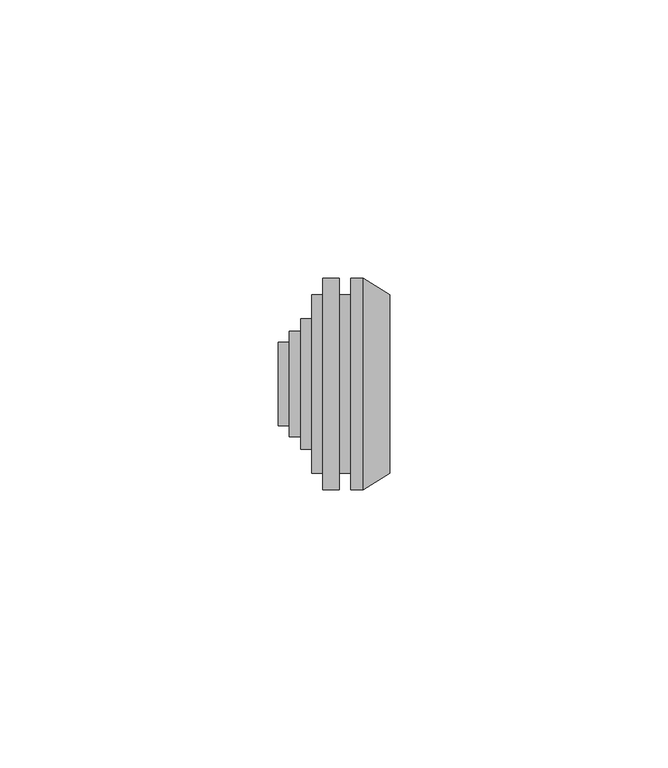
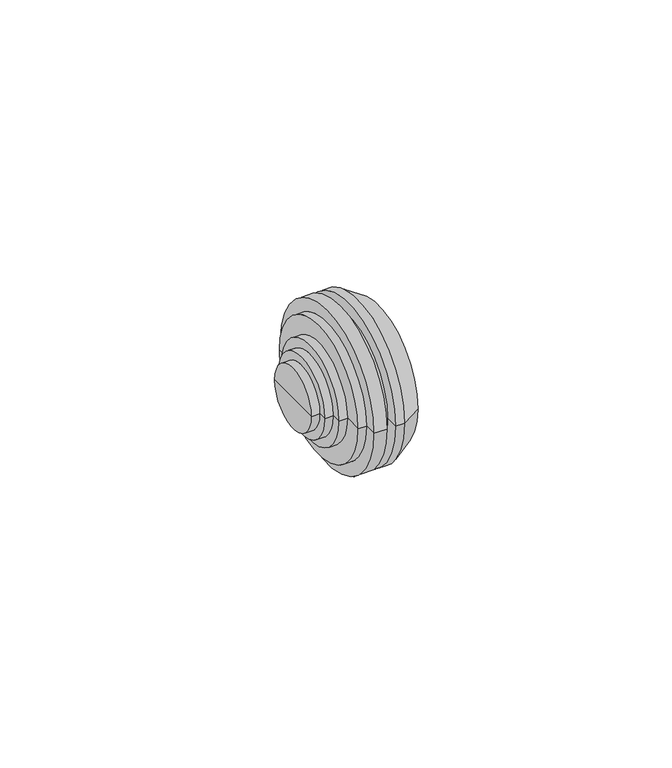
"""IFC4 building model written with IfcOpenShell, lengths in millimetres: cable carrier fitting geometry, КНС_КабельныйВводДляТруб_IP55_DKC : Коробка."""

import ifcopenshell
import ifcopenshell.guid

model = None  # the IFC model being written
_history = None  # IfcOwnerHistory: only IFC2X3 demands one
_inside = {}  # id of a spatial element -> (the spatial element, [elements in it])
_under = {}  # id of a project, library or spatial element -> (it, [spatial elements below it])
_declared = {}  # id of a project -> (the project, [libraries it declares])
_typed = {}  # id of a type object -> (the type object, [elements of that type])
_made_of = {}  # id of a material, layer set ... -> (it, [elements and type objects made of it])


def new_model(schema):
    """Start an empty IFC model of exactly this schema.

    Asked for "IFC4X3", IfcOpenShell would pick the latest addendum, in which some entities
    have other attributes; the version numbers below select the first issue.
    IFC2X3 requires an IfcOwnerHistory on every rooted entity: one is made here for all.
    """
    global model, _history
    if schema == "IFC4X3":
        model = ifcopenshell.file(schema_version=(4, 3, 0, 0))
    else:
        model = ifcopenshell.file(schema=schema)
    _inside.clear()
    _under.clear()
    _declared.clear()
    _typed.clear()
    _made_of.clear()
    _history = None
    if model.schema == "IFC2X3":
        org = make("IfcOrganization", Name="unknown")
        user = make(
            "IfcPersonAndOrganization",
            ThePerson=make("IfcPerson", FamilyName="unknown"),
            TheOrganization=org,
        )
        app = make(
            "IfcApplication",
            ApplicationDeveloper=org,
            Version="unknown",
            ApplicationFullName="unknown",
            ApplicationIdentifier="unknown",
        )
        _history = make(
            "IfcOwnerHistory",
            OwningUser=user,
            OwningApplication=app,
            ChangeAction="ADDED",
            CreationDate=0,
        )
    return model


def make(cls, **values):
    """One entity of the class cls with the attributes given. An attribute that is None is left unset."""
    return model.create_entity(
        cls, **{name: value for name, value in values.items() if value is not None}
    )


def rooted(cls, **values):
    """An entity with a GlobalId (a new one), such as an element, a storey or a relation."""
    return make(cls, GlobalId=ifcopenshell.guid.new(), OwnerHistory=_history, **values)


def si_unit(unit_type, name, prefix=None):
    """IfcSIUnit, for example si_unit("LENGTHUNIT", "METRE", prefix="MILLI")."""
    return make("IfcSIUnit", UnitType=unit_type, Prefix=prefix, Name=name)


def assignment(units):
    """IfcUnitAssignment: the units of a project."""
    return None if units is None else make("IfcUnitAssignment", Units=units)


def point(xyz):
    """IfcCartesianPoint."""
    return None if xyz is None else make("IfcCartesianPoint", Coordinates=xyz)


def direction(xyz):
    """IfcDirection."""
    return None if xyz is None else make("IfcDirection", DirectionRatios=xyz)


def frame(location, z_axis=None, x_axis=None):
    """IfcAxis2Placement3D, a coordinate frame: its origin and axes. An axis left out is left unset."""
    return make(
        "IfcAxis2Placement3D",
        Location=point(location),
        Axis=direction(z_axis),
        RefDirection=direction(x_axis),
    )


def origin():
    """The frame at (0, 0, 0) with its axes left unset."""
    return frame((0.0, 0.0, 0.0))


def place(relative_to, where):
    """IfcLocalPlacement: puts the frame where relative to a parent placement (None: the world)."""
    return make(
        "IfcLocalPlacement", PlacementRelTo=relative_to, RelativePlacement=where
    )


def context(
    kind, dimensions, precision=None, world=None, true_north=None, identifier=None
):
    """IfcGeometricRepresentationContext, for example the 3D "Model" context."""
    return make(
        "IfcGeometricRepresentationContext",
        ContextIdentifier=identifier,
        ContextType=kind,
        CoordinateSpaceDimension=dimensions,
        Precision=precision,
        WorldCoordinateSystem=world,
        TrueNorth=true_north,
    )


def project(units=None, contexts=None):
    """IfcProject with its units and contexts."""
    return rooted(
        "IfcProject",
        Name="project",
        RepresentationContexts=contexts,
        UnitsInContext=assignment(units),
    )


def spatial(cls, under=None, at=None, **own):
    """A site, building, storey or space (cls), placed at a placement, below another one or the project."""
    s = rooted(cls, ObjectPlacement=at, **own)
    if under is not None:
        _under.setdefault(under.id(), (under, []))[1].append(s)
    return s


def polyline(points):
    """IfcPolyline through the points."""
    return make("IfcPolyline", Points=[point(p) for p in points])


def circle_curve(where, radius):
    """IfcCircle in the frame where."""
    return make("IfcCircle", Position=where, Radius=radius)


def shape(context_of_items, identifier, shape_type, items):
    """IfcShapeRepresentation: the items that make up one representation, for example the "Body"."""
    return make(
        "IfcShapeRepresentation",
        ContextOfItems=context_of_items,
        RepresentationIdentifier=identifier,
        RepresentationType=shape_type,
        Items=items,
    )


def source(mapping_origin, context_of_items, identifier, shape_type, items):
    """IfcRepresentationMap: a shape defined once, which mapped items show again and again."""
    return make(
        "IfcRepresentationMap",
        MappingOrigin=mapping_origin,
        MappedRepresentation=shape(context_of_items, identifier, shape_type, items),
    )


def transform(
    local_origin,
    x_axis=None,
    y_axis=None,
    z_axis=None,
    scale=None,
    scale2=None,
    scale3=None,
    uniform=True,
):
    """IfcCartesianTransformationOperator3D, or its non-uniform kind. x_axis, y_axis, z_axis: its Axis1, 2, 3."""
    if uniform:
        return make(
            "IfcCartesianTransformationOperator3D",
            Axis1=direction(x_axis),
            Axis2=direction(y_axis),
            LocalOrigin=point(local_origin),
            Scale=scale,
            Axis3=direction(z_axis),
        )
    return make(
        "IfcCartesianTransformationOperator3DnonUniform",
        Axis1=direction(x_axis),
        Axis2=direction(y_axis),
        LocalOrigin=point(local_origin),
        Scale=scale,
        Axis3=direction(z_axis),
        Scale2=scale2,
        Scale3=scale3,
    )


def mapped(mapping_source, mapping_target):
    """IfcMappedItem: shows the shape of a source again, moved by a transform."""
    return make(
        "IfcMappedItem", MappingSource=mapping_source, MappingTarget=mapping_target
    )


def made_of(thing, what):
    """Note that an element or type object is made of a material, layer set ...; save() writes the relation."""
    if what is not None:
        _made_of.setdefault(what.id(), (what, []))[1].append(thing)
    return thing


def element(
    cls,
    number,
    at=None,
    inside=None,
    cuts=None,
    type_object=None,
    material=None,
    context=None,
    identifier="Body",
    shape_type=None,
    held_by="IfcProductDefinitionShape",
    body=None,
    shapes=None,
    **own,
):
    """One element of the class cls, such as IfcWall. Its Tag is "e" and its number.

    at: its placement. inside: the storey or other place that contains it. cuts: it is an
    opening in that element (IfcRelVoidsElement). A single representation is given by context,
    identifier, shape_type and body (its items); several are given by shapes. held_by: the class
    of the entity that holds the representations. save() writes the other relations.
    """
    e = rooted(cls, Tag="e%d" % number, ObjectPlacement=at, **own)
    if body is not None:
        shapes = [shape(context, identifier, shape_type, body)]
    if shapes is not None:
        e.Representation = make(held_by, Representations=shapes)
    if inside is not None:
        _inside.setdefault(inside.id(), (inside, []))[1].append(e)
    if cuts is not None:
        rooted(
            "IfcRelVoidsElement", RelatingBuildingElement=cuts, RelatedOpeningElement=e
        )
    if type_object is not None:
        _typed.setdefault(type_object.id(), (type_object, []))[1].append(e)
    return made_of(e, material)


def aggregate(whole, parts):
    """IfcRelAggregates: a whole, such as a stair, and the parts it consists of."""
    return rooted("IfcRelAggregates", RelatingObject=whole, RelatedObjects=parts)


def save(model, path):
    """Write the relations noted so far, then the file.

    IfcRelAggregates (storeys below a building ...), IfcRelContainedInSpatialStructure (elements
    in a storey), IfcRelDefinesByType, IfcRelAssociatesMaterial and IfcRelDeclares: one each for
    every whole, place, type object, material and project.
    """
    for whole, parts in _under.values():
        aggregate(whole, parts)
    for where, things in _inside.values():
        rooted(
            "IfcRelContainedInSpatialStructure",
            RelatedElements=things,
            RelatingStructure=where,
        )
    for kind, things in _typed.values():
        rooted("IfcRelDefinesByType", RelatedObjects=things, RelatingType=kind)
    for what, things in _made_of.values():
        rooted("IfcRelAssociatesMaterial", RelatedObjects=things, RelatingMaterial=what)
    for by, libraries in _declared.values():
        rooted("IfcRelDeclares", RelatingContext=by, RelatedDefinitions=libraries)
    model.write(path)


def plane_surface(at):
    """IfcPlane: the flat surface through the origin of the frame at, square to its z axis."""
    return make("IfcPlane", Position=at)


def cylinder_surface(at, radius):
    """IfcCylindricalSurface: all points at the distance radius from the z axis of the frame at."""
    return make("IfcCylindricalSurface", Position=at, Radius=radius)


def revolved_surface(curve, axis_point, axis_direction):
    """IfcSurfaceOfRevolution: the curve turned about the line through axis_point along axis_direction."""
    return make(
        "IfcSurfaceOfRevolution",
        SweptCurve=make("IfcArbitraryOpenProfileDef", ProfileType="CURVE", Curve=curve),
        AxisPosition=make("IfcAxis1Placement", Location=point(axis_point), Axis=direction(axis_direction)),
    )


def advanced_brep(points, edges, surfaces, faces):
    """IfcAdvancedBrep: a solid bounded by faces that lie on surfaces and meet in shared edges.

    An edge is (start, end): straight between two places in points (the first is 0);
    or (start, end, curve); or (start, end, curve, False) where it runs against its curve.
    A face is (place in surfaces, loops), or (place, loops, False) where it looks against
    its surface's normal. A loop lists edges by number (the first is 1), with a minus sign
    where the edge is run from its end to its start. The first loop is the outer one.
    """
    corners = [point(p) for p in points]
    vertices = [make("IfcVertexPoint", VertexGeometry=c) for c in corners]
    made = []
    for start, end, *more in edges:
        made.append(
            make(
                "IfcEdgeCurve",
                EdgeStart=vertices[start],
                EdgeEnd=vertices[end],
                EdgeGeometry=more[0] if more else make("IfcPolyline", Points=[corners[start], corners[end]]),
                SameSense=more[1] if len(more) > 1 else True,
            )
        )
    hull = []
    for where, loops, *sense in faces:
        bounds = []
        for j, loop in enumerate(loops):
            ring = [make("IfcOrientedEdge", EdgeElement=made[abs(k) - 1], Orientation=k > 0) for k in loop]
            bounds.append(
                make(
                    "IfcFaceOuterBound" if j == 0 else "IfcFaceBound",
                    Bound=make("IfcEdgeLoop", EdgeList=ring),
                    Orientation=True,
                )
            )
        hull.append(make("IfcAdvancedFace", Bounds=bounds, FaceSurface=surfaces[where], SameSense=sense[0] if sense else True))
    return make("IfcAdvancedBrep", Outer=make("IfcClosedShell", CfsFaces=hull))


def cable_carrier_fitting_f18409c2(model_context):
    return source(origin(), model_context, "Body", "AdvancedBrep", [
        advanced_brep(
        [(11.0, -16.0, 0.0), (11.0, 16.0, 0.0), (11.0, 19.0, 0.0), (11.0, -19.0, 0.0), (9.0, -16.0, 0.0), (9.0, 16.0, 0.0), (9.0, -19.0, 0.0), (9.0, 19.0, 0.0), (6.0, -19.0, 0.0), (6.0, 19.0, 0.0), (6.0, -16.0, 0.0), (6.0, 16.0, 0.0), (4.0, -16.0, 0.0), (4.0, 16.0, 0.0), (4.0, -11.75, 0.0), (4.0, 11.75, 0.0), (2.0, -11.75, 0.0), (2.0, 11.75, 0.0), (2.0, -9.5, 0.0), (2.0, 9.5, 0.0), (0.0, -9.5, 0.0), (0.0, 9.5, 0.0), (0.0, -7.5, 0.0), (0.0, 7.5, 0.0), (-2.0, -7.5, 0.0), (-2.0, 7.5, 0.0), (-2.0, 0.0, 0.0), (18.0, -16.0, 0.0), (18.0, 16.0, 0.0), (18.0, 0.0, 0.0), (13.2508863, -19.0, 0.0), (13.2508863, 19.0, 0.0)],
        [
            (0, 1, circle_curve(frame((11.0, 0.0, 0.0), z_axis=(1.0, 0.0, 0.0), x_axis=(0.0, 1.0, 0.0)), 16.0)),
            (1, 2),
            (2, 3, circle_curve(frame((11.0, 0.0, 0.0), z_axis=(-1.0, 0.0, 0.0), x_axis=(0.0, 1.0, 0.0)), 19.0)),
            (3, 0),
            (1, 0, circle_curve(frame((11.0, 0.0, 0.0), z_axis=(1.0, 0.0, 0.0), x_axis=(0.0, 1.0, 0.0)), 16.0)),
            (3, 2, circle_curve(frame((11.0, 0.0, 0.0), z_axis=(-1.0, 0.0, 0.0), x_axis=(0.0, 1.0, 0.0)), 19.0)),
            (4, 5, circle_curve(frame((9.0, 0.0, 0.0), z_axis=(1.0, 0.0, 0.0), x_axis=(0.0, 1.0, 0.0)), 16.0)),
            (5, 1),
            (0, 4),
            (5, 4, circle_curve(frame((9.0, 0.0, 0.0), z_axis=(1.0, 0.0, 0.0), x_axis=(0.0, 1.0, 0.0)), 16.0)),
            (6, 7, circle_curve(frame((9.0, 0.0, 0.0), z_axis=(1.0, 0.0, 0.0), x_axis=(0.0, 1.0, 0.0)), 19.0)),
            (7, 5),
            (4, 6),
            (7, 6, circle_curve(frame((9.0, 0.0, 0.0), z_axis=(1.0, 0.0, 0.0), x_axis=(0.0, 1.0, 0.0)), 19.0)),
            (8, 9, circle_curve(frame((6.0, 0.0, 0.0), z_axis=(1.0, 0.0, 0.0), x_axis=(0.0, 1.0, 0.0)), 19.0)),
            (9, 7),
            (6, 8),
            (9, 8, circle_curve(frame((6.0, 0.0, 0.0), z_axis=(1.0, 0.0, 0.0), x_axis=(0.0, 1.0, 0.0)), 19.0)),
            (10, 11, circle_curve(frame((6.0, 0.0, 0.0), z_axis=(1.0, 0.0, 0.0), x_axis=(0.0, 1.0, 0.0)), 16.0)),
            (11, 9),
            (8, 10),
            (11, 10, circle_curve(frame((6.0, 0.0, 0.0), z_axis=(1.0, 0.0, 0.0), x_axis=(0.0, 1.0, 0.0)), 16.0)),
            (12, 13, circle_curve(frame((4.0, 0.0, 0.0), z_axis=(1.0, 0.0, 0.0), x_axis=(0.0, 1.0, 0.0)), 16.0)),
            (13, 11),
            (10, 12),
            (13, 12, circle_curve(frame((4.0, 0.0, 0.0), z_axis=(1.0, 0.0, 0.0), x_axis=(0.0, 1.0, 0.0)), 16.0)),
            (14, 15, circle_curve(frame((4.0, 0.0, 0.0), z_axis=(1.0, 0.0, 0.0), x_axis=(0.0, 1.0, 0.0)), 11.75)),
            (15, 13),
            (12, 14),
            (15, 14, circle_curve(frame((4.0, 0.0, 0.0), z_axis=(1.0, 0.0, 0.0), x_axis=(0.0, 1.0, 0.0)), 11.75)),
            (16, 17, circle_curve(frame((2.0, 0.0, 0.0), z_axis=(1.0, 0.0, 0.0), x_axis=(0.0, 1.0, 0.0)), 11.75)),
            (17, 15),
            (14, 16),
            (17, 16, circle_curve(frame((2.0, 0.0, 0.0), z_axis=(1.0, 0.0, 0.0), x_axis=(0.0, 1.0, 0.0)), 11.75)),
            (18, 19, circle_curve(frame((2.0, 0.0, 0.0), z_axis=(1.0, 0.0, 0.0), x_axis=(0.0, 1.0, 0.0)), 9.5)),
            (19, 17),
            (16, 18),
            (19, 18, circle_curve(frame((2.0, 0.0, 0.0), z_axis=(1.0, 0.0, 0.0), x_axis=(0.0, 1.0, 0.0)), 9.5)),
            (20, 21, circle_curve(frame((0.0, 0.0, 0.0), z_axis=(1.0, 0.0, 0.0), x_axis=(0.0, 1.0, 0.0)), 9.5)),
            (21, 19),
            (18, 20),
            (21, 20, circle_curve(frame((0.0, 0.0, 0.0), z_axis=(1.0, 0.0, 0.0), x_axis=(0.0, 1.0, 0.0)), 9.5)),
            (22, 23, circle_curve(frame((0.0, 0.0, 0.0), z_axis=(1.0, 0.0, 0.0), x_axis=(0.0, 1.0, 0.0)), 7.5)),
            (23, 21),
            (20, 22),
            (23, 22, circle_curve(frame((0.0, 0.0, 0.0), z_axis=(1.0, 0.0, 0.0), x_axis=(0.0, 1.0, 0.0)), 7.5)),
            (24, 25, circle_curve(frame((-2.0, 0.0, 0.0), z_axis=(1.0, 0.0, 0.0), x_axis=(0.0, 1.0, 0.0)), 7.5)),
            (25, 23),
            (22, 24),
            (25, 24, circle_curve(frame((-2.0, 0.0, 0.0), z_axis=(1.0, 0.0, 0.0), x_axis=(0.0, 1.0, 0.0)), 7.5)),
            (26, 25),
            (24, 26),
            (27, 28, circle_curve(frame((18.0, 0.0, 0.0), z_axis=(1.0, 0.0, 0.0), x_axis=(0.0, 1.0, 0.0)), 16.0)),
            (28, 29),
            (29, 27),
            (28, 27, circle_curve(frame((18.0, 0.0, 0.0), z_axis=(1.0, 0.0, 0.0), x_axis=(0.0, 1.0, 0.0)), 16.0)),
            (30, 31, circle_curve(frame((13.2508863, 0.0, 0.0), z_axis=(1.0, 0.0, 0.0), x_axis=(0.0, 1.0, 0.0)), 19.0)),
            (31, 28),
            (27, 30),
            (31, 30, circle_curve(frame((13.2508863, 0.0, 0.0), z_axis=(1.0, 0.0, 0.0), x_axis=(0.0, 1.0, 0.0)), 19.0)),
            (2, 31),
            (30, 3),
        ],
        [
            plane_surface(frame((11.0, 0.0, 0.0), z_axis=(-1.0, 0.0, 0.0), x_axis=(0.0, 1.0, 0.0))),
            cylinder_surface(frame((1524.0, 0.0, 0.0), z_axis=(-1.0, 0.0, 0.0), x_axis=(0.0, 1.0, 0.0)), 16.0),
            plane_surface(frame((9.0, 0.0, 0.0), z_axis=(1.0, 0.0, 0.0), x_axis=(0.0, 1.0, 0.0))),
            cylinder_surface(frame((1524.0, 0.0, 0.0), z_axis=(-1.0, 0.0, 0.0), x_axis=(0.0, 1.0, 0.0)), 19.0),
            plane_surface(frame((6.0, 0.0, 0.0), z_axis=(-1.0, 0.0, 0.0), x_axis=(0.0, 1.0, 0.0))),
            plane_surface(frame((4.0, 0.0, 0.0), z_axis=(-1.0, 0.0, 0.0), x_axis=(0.0, 1.0, 0.0))),
            cylinder_surface(frame((1524.0, 0.0, 0.0), z_axis=(-1.0, 0.0, 0.0), x_axis=(0.0, 1.0, 0.0)), 11.75),
            plane_surface(frame((2.0, 0.0, 0.0), z_axis=(-1.0, 0.0, 0.0), x_axis=(0.0, 1.0, 0.0))),
            cylinder_surface(frame((1524.0, 0.0, 0.0), z_axis=(-1.0, 0.0, 0.0), x_axis=(0.0, 1.0, 0.0)), 9.5),
            plane_surface(frame((0.0, 0.0, 0.0), z_axis=(-1.0, 0.0, 0.0), x_axis=(0.0, 1.0, 0.0))),
            cylinder_surface(frame((1524.0, 0.0, 0.0), z_axis=(-1.0, 0.0, 0.0), x_axis=(0.0, 1.0, 0.0)), 7.5),
            plane_surface(frame((-2.0, 0.0, 0.0), z_axis=(-1.0, 0.0, 0.0), x_axis=(0.0, 1.0, 0.0))),
            plane_surface(frame((18.0, 0.0, 0.0), z_axis=(1.0, 0.0, 0.0), x_axis=(0.0, 1.0, 0.0))),
            revolved_surface(polyline([(18.0, 16.0, 0.0), (13.2508863, 19.0, 0.0)]), (1524.0, 0.0, 0.0), (-1.0, 0.0, 0.0)),
        ],
        [
            (0, [[1, 2, 3, 4]]),
            (0, [[5, -4, 6, -2]]),
            (1, [[7, 8, -1, 9]]),
            (1, [[10, -9, -5, -8]]),
            (2, [[11, 12, -7, 13]]),
            (2, [[14, -13, -10, -12]]),
            (3, [[15, 16, -11, 17]]),
            (3, [[18, -17, -14, -16]]),
            (4, [[19, 20, -15, 21]]),
            (4, [[22, -21, -18, -20]]),
            (1, [[23, 24, -19, 25]]),
            (1, [[26, -25, -22, -24]]),
            (5, [[27, 28, -23, 29]]),
            (5, [[30, -29, -26, -28]]),
            (6, [[31, 32, -27, 33]]),
            (6, [[34, -33, -30, -32]]),
            (7, [[35, 36, -31, 37]]),
            (7, [[38, -37, -34, -36]]),
            (8, [[39, 40, -35, 41]]),
            (8, [[42, -41, -38, -40]]),
            (9, [[43, 44, -39, 45]]),
            (9, [[46, -45, -42, -44]]),
            (10, [[47, 48, -43, 49]]),
            (10, [[50, -49, -46, -48]]),
            (11, [[51, -47, 52]]),
            (11, [[-52, -50, -51]]),
            (12, [[53, 54, 55]]),
            (12, [[56, -55, -54]]),
            (13, [[57, 58, -53, 59]]),
            (13, [[60, -59, -56, -58]]),
            (3, [[-3, 61, -57, 62]]),
            (3, [[-6, -62, -60, -61]]),
        ],
    ),
    ])


if __name__ == "__main__":
    model = new_model("IFC4")
    model_context = context("Model", 3, world=origin())
    ifc_project = project(units=[si_unit("LENGTHUNIT", "METRE", prefix="MILLI")], contexts=[model_context])
    site = spatial("IfcSite", under=ifc_project)
    building = spatial("IfcBuilding", under=site)
    placement = place(None, origin())
    cable_carrier_fitting_shape = cable_carrier_fitting_f18409c2(model_context)
    element("IfcCableCarrierFitting", 1, ObjectType="КНС_КабельныйВводДляТруб_IP55_DKC : Коробка", at=placement, inside=building, context=model_context, shape_type="MappedRepresentation", body=[
        mapped(cable_carrier_fitting_shape, transform((0.0, 0.0, 0.0), x_axis=(1.0, 0.0, 0.0), y_axis=(0.0, 1.0, 0.0), z_axis=(0.0, 0.0, 1.0))),
    ])
    save(model, "model.ifc")
